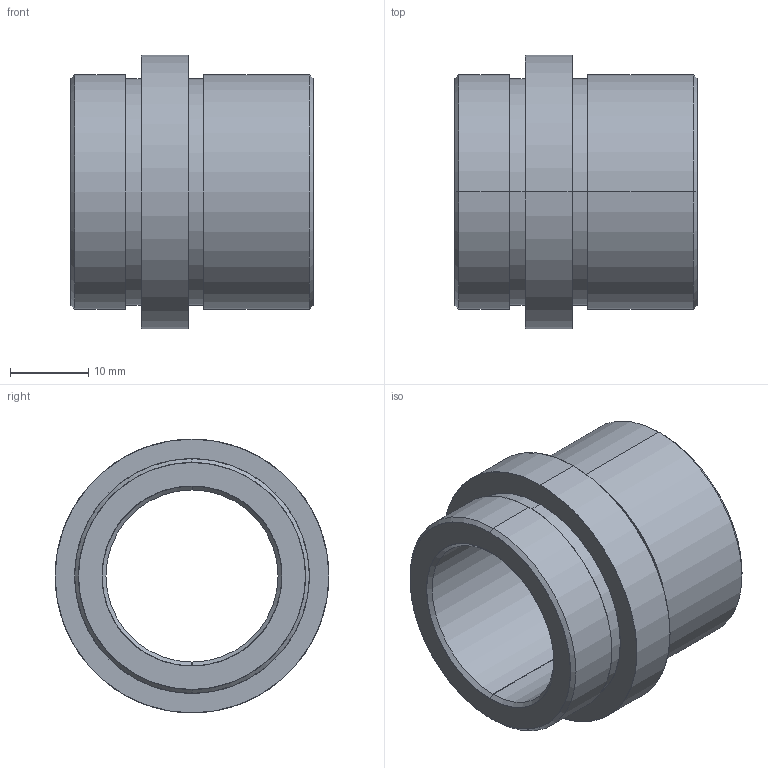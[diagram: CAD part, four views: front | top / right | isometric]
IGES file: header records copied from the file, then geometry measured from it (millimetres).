
Start section: SolidWorks IGES FILE using analytic representation for surfaces
Global section: file name: D:\zzzzz\Delta\D21\22\D21 - 22x22.IGS; native system: SolidWorks 2004 by SolidWorks Corporation; preprocessor: Version 5.3; author: Hkn; date: 080326.192434; units: millimetre
Bounding box: 31 x 35 x 35 mm (x, y, z)
Surface area: 6399.5 mm2 (no closed solid volume)
Topology: 0 solids, 0 shells, 26 faces, 784 edges, 784 vertices
Faces by surface type: revolution 20, bspline 6
